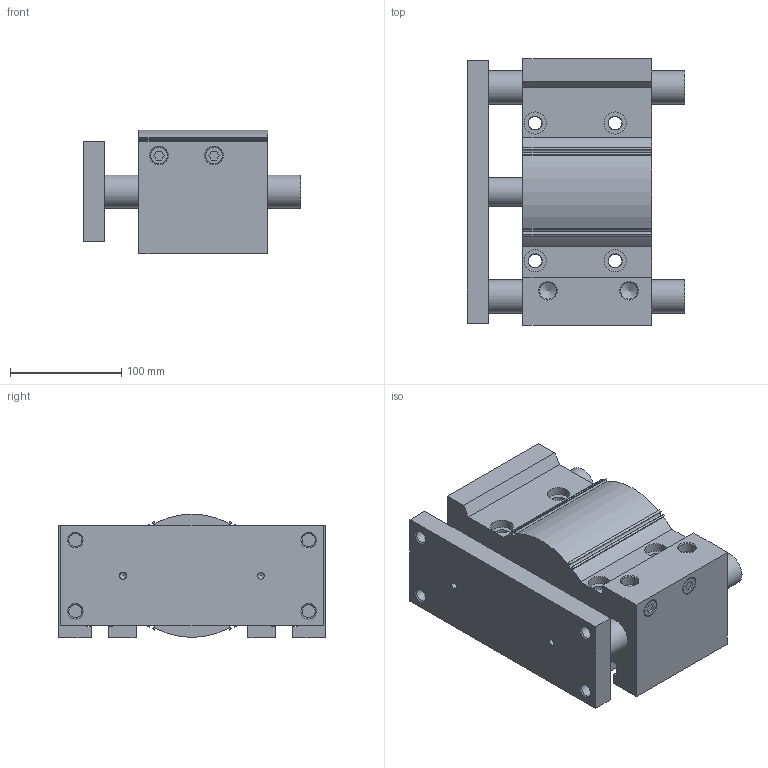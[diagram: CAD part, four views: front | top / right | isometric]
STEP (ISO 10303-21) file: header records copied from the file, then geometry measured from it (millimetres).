
FILE_DESCRIPTION(/* description */ ('STEP AP214'),/* implementation_level */ '2;1');
FILE_NAME(/* name */ 'MGPL100TF-50Z(0_0)',/* time_stamp */ '2025-09-11T07:49:41+02:00',/* author */ ('License CC BY-ND 4.0'),/* organization */ ('CADENAS'),/* preprocessor_version */ 'ST-DEVELOPER v19.3',/* originating_system */ 'PARTsolutions',/* authorisation */ ' ');
FILE_SCHEMA (('AUTOMOTIVE_DESIGN {1 0 10303 214 3 1 1}'));
Length unit declared in the file: millimetre
Products named in the file (4): MGPL100TF-50Z(0_0); MGPL100-50Z(0)_BODY; MGPL100-50Z(0)_ROD; MGP-Z_PLUG_100
Assembly tree (4 placements, depth 2):
  MGPL100TF-50Z(0_0)
    MGPL100-50Z(0)_BODY
    MGPL100-50Z(0)_ROD
    MGP-Z_PLUG_100  x2
Bounding box: 195.5 x 240 x 111.5 mm (x, y, z)
Volume: 2642440.4 mm3; surface area: 343098.8 mm2
Topology: 4 solids, 4 shells, 200 faces, 484 edges, 308 vertices
Faces by surface type: plane 104, cylinder 58, cone 38
Full cylindrical faces by diameter (mm): 6 x6, 11.835 x12, 12.5 x4, 14.95 x4, 16.662 x2, 20 x4, 26 x2, 30 x4, 100 x2
Entity records: 5165 total; most frequent: DIRECTION 892, CARTESIAN_POINT 849, ORIENTED_EDGE 734, EDGE_CURVE 367, AXIS2_PLACEMENT_3D 332, FACE_BOUND 312, EDGE_LOOP 298, VERTEX_POINT 289
